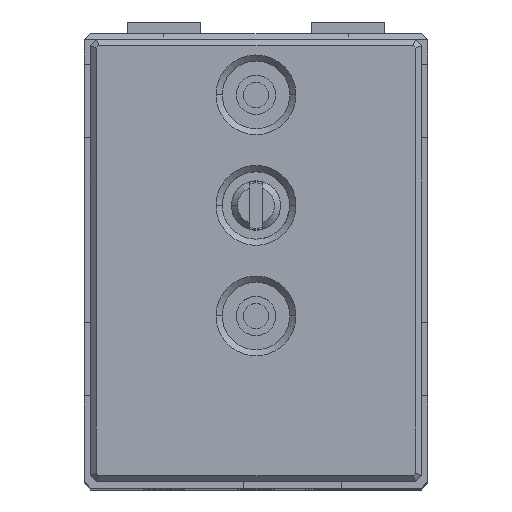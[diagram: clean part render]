
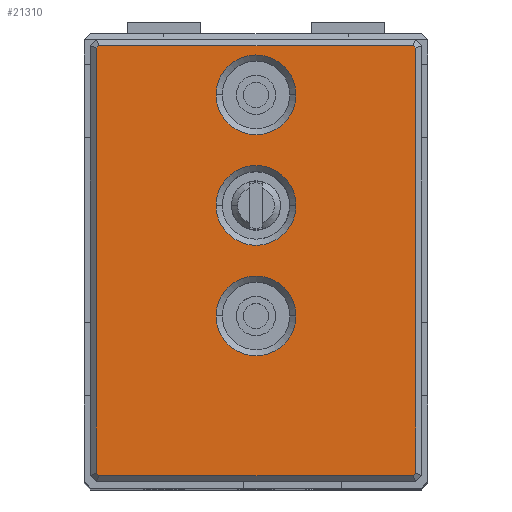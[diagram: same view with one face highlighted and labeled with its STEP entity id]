
A CAD part, top view. The second image highlights one B-rep face of the part: STEP entity #21310.
In plain terms, the highlighted planar face has unit normal (0, 0, 1) as drawn and (0, 0, -1) by its records, which use the part's own axes.
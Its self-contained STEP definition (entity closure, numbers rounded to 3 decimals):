
#101 = CIRCLE ( 'NONE', #27097, 3.25 ) ;
#203 = VERTEX_POINT ( 'NONE', #5102 ) ;
#1277 = EDGE_CURVE ( 'NONE', #12930, #22579, #18953, .T. ) ;
#2662 = DIRECTION ( 'NONE',  ( 0., -1., 0. ) ) ;
#3143 = CARTESIAN_POINT ( 'NONE',  ( 0., 35.5, 0. ) ) ;
#4033 = EDGE_LOOP ( 'NONE', ( #33555, #47469 ) ) ;
#4134 = VERTEX_POINT ( 'NONE', #43701 ) ;
#5102 = CARTESIAN_POINT ( 'NONE',  ( 26.293, 35.5, 0. ) ) ;
#5668 = ORIENTED_EDGE ( 'NONE', *, *, #15088, .T. ) ;
#5672 = ORIENTED_EDGE ( 'NONE', *, *, #36149, .T. ) ;
#5678 = CARTESIAN_POINT ( 'NONE',  ( 13.5, 13.5, 0. ) ) ;
#6556 = CARTESIAN_POINT ( 'NONE',  ( 10.25, 13.5, 0. ) ) ;
#6701 = CARTESIAN_POINT ( 'NONE',  ( 0.5, 35.293, 0. ) ) ;
#6812 = DIRECTION ( 'NONE',  ( -0.707, -0.707, 0. ) ) ;
#6894 = CARTESIAN_POINT ( 'NONE',  ( 10.25, 31.5, 0. ) ) ;
#7827 = CARTESIAN_POINT ( 'NONE',  ( 13.5, 13.5, 0. ) ) ;
#7857 = VERTEX_POINT ( 'NONE', #34235 ) ;
#8000 = CARTESIAN_POINT ( 'NONE',  ( 13.5, 31.5, 0. ) ) ;
#8030 = DIRECTION ( 'NONE',  ( 0., 0., 1. ) ) ;
#8773 = CARTESIAN_POINT ( 'NONE',  ( 0., 0., 0. ) ) ;
#9191 = VECTOR ( 'NONE', #12988, 1000. ) ;
#9226 = CARTESIAN_POINT ( 'NONE',  ( 26.5, 0., 0. ) ) ;
#9432 = DIRECTION ( 'NONE',  ( 1., 0., 0. ) ) ;
#9857 = ORIENTED_EDGE ( 'NONE', *, *, #44030, .T. ) ;
#10477 = VECTOR ( 'NONE', #31579, 1000. ) ;
#10498 = VECTOR ( 'NONE', #11483, 1000. ) ;
#10810 = LINE ( 'NONE', #33134, #42478 ) ;
#11078 = ORIENTED_EDGE ( 'NONE', *, *, #21554, .T. ) ;
#11483 = DIRECTION ( 'NONE',  ( -1., 0., 0. ) ) ;
#12488 = LINE ( 'NONE', #19940, #10477 ) ;
#12657 = DIRECTION ( 'NONE',  ( 0., 0., 1. ) ) ;
#12930 = VERTEX_POINT ( 'NONE', #44294 ) ;
#12988 = DIRECTION ( 'NONE',  ( 0.707, 0.707, 0. ) ) ;
#13525 = EDGE_CURVE ( 'NONE', #45175, #39062, #41711, .T. ) ;
#13844 = DIRECTION ( 'NONE',  ( 1., 0., 0. ) ) ;
#14127 = EDGE_CURVE ( 'NONE', #21255, #16984, #20253, .T. ) ;
#14166 = CARTESIAN_POINT ( 'NONE',  ( 0.707, 0.5, 0. ) ) ;
#14255 = VECTOR ( 'NONE', #29234, 1000. ) ;
#14339 = LINE ( 'NONE', #3143, #14255 ) ;
#15088 = EDGE_CURVE ( 'NONE', #203, #27382, #12488, .T. ) ;
#16408 = DIRECTION ( 'NONE',  ( 1., 0., 0. ) ) ;
#16984 = VERTEX_POINT ( 'NONE', #23808 ) ;
#17264 = DIRECTION ( 'NONE',  ( -0.707, 0.707, 0. ) ) ;
#18404 = CARTESIAN_POINT ( 'NONE',  ( 26.5, 35.293, 0. ) ) ;
#18653 = EDGE_CURVE ( 'NONE', #4134, #33349, #27985, .T. ) ;
#18953 = LINE ( 'NONE', #34052, #10498 ) ;
#19687 = ORIENTED_EDGE ( 'NONE', *, *, #21120, .T. ) ;
#19940 = CARTESIAN_POINT ( 'NONE',  ( 30.896, 30.896, 0. ) ) ;
#20253 = CIRCLE ( 'NONE', #48022, 3.25 ) ;
#20711 = VERTEX_POINT ( 'NONE', #33983 ) ;
#20866 = DIRECTION ( 'NONE',  ( 0., 0., 1. ) ) ;
#20970 = CARTESIAN_POINT ( 'NONE',  ( 0.604, 0.604, 0. ) ) ;
#21120 = EDGE_CURVE ( 'NONE', #35224, #44358, #10810, .T. ) ;
#21255 = VERTEX_POINT ( 'NONE', #6556 ) ;
#21310 = ADVANCED_FACE ( 'NONE', ( #42291, #23437, #30647, #38557 ), #27650, .F. ) ;
#21554 = EDGE_CURVE ( 'NONE', #44358, #20711, #43532, .T. ) ;
#21851 = VECTOR ( 'NONE', #17264, 1000. ) ;
#22579 = VERTEX_POINT ( 'NONE', #14166 ) ;
#22877 = ORIENTED_EDGE ( 'NONE', *, *, #34113, .T. ) ;
#23095 = EDGE_CURVE ( 'NONE', #20711, #203, #14339, .T. ) ;
#23437 = FACE_BOUND ( 'NONE', #28579, .T. ) ;
#23608 = CARTESIAN_POINT ( 'NONE',  ( 13.5, 22.5, 0. ) ) ;
#23808 = CARTESIAN_POINT ( 'NONE',  ( 16.75, 13.5, 0. ) ) ;
#24302 = AXIS2_PLACEMENT_3D ( 'NONE', #7827, #37356, #48855 ) ;
#25405 = LINE ( 'NONE', #20970, #21851 ) ;
#25427 = LINE ( 'NONE', #45073, #44880 ) ;
#26654 = ORIENTED_EDGE ( 'NONE', *, *, #18653, .T. ) ;
#27097 = AXIS2_PLACEMENT_3D ( 'NONE', #28286, #39169, #16408 ) ;
#27382 = VERTEX_POINT ( 'NONE', #18404 ) ;
#27416 = AXIS2_PLACEMENT_3D ( 'NONE', #8773, #8030, #46303 ) ;
#27616 = DIRECTION ( 'NONE',  ( 0., 0., 1. ) ) ;
#27650 = PLANE ( 'NONE',  #27416 ) ;
#27784 = EDGE_CURVE ( 'NONE', #39062, #45175, #101, .T. ) ;
#27985 = CIRCLE ( 'NONE', #32717, 3.25 ) ;
#28198 = VECTOR ( 'NONE', #2662, 1000. ) ;
#28286 = CARTESIAN_POINT ( 'NONE',  ( 13.5, 31.5, 0. ) ) ;
#28302 = DIRECTION ( 'NONE',  ( 1., 0., 0. ) ) ;
#28579 = EDGE_LOOP ( 'NONE', ( #26654, #38247 ) ) ;
#28617 = CARTESIAN_POINT ( 'NONE',  ( -17.396, 17.396, 0. ) ) ;
#29025 = AXIS2_PLACEMENT_3D ( 'NONE', #8000, #27616, #38274 ) ;
#29205 = ORIENTED_EDGE ( 'NONE', *, *, #13525, .T. ) ;
#29234 = DIRECTION ( 'NONE',  ( 1., 0., 0. ) ) ;
#29277 = CARTESIAN_POINT ( 'NONE',  ( 16.75, 22.5, 0. ) ) ;
#30647 = FACE_BOUND ( 'NONE', #4033, .T. ) ;
#31325 = ORIENTED_EDGE ( 'NONE', *, *, #27784, .T. ) ;
#31551 = ORIENTED_EDGE ( 'NONE', *, *, #23095, .T. ) ;
#31579 = DIRECTION ( 'NONE',  ( 0.707, -0.707, 0. ) ) ;
#31791 = LINE ( 'NONE', #9226, #28198 ) ;
#32113 = AXIS2_PLACEMENT_3D ( 'NONE', #23608, #20866, #9432 ) ;
#32425 = EDGE_LOOP ( 'NONE', ( #5672, #22877, #46006, #9857, #19687, #11078, #31551, #5668 ) ) ;
#32717 = AXIS2_PLACEMENT_3D ( 'NONE', #47150, #47884, #13844 ) ;
#33134 = CARTESIAN_POINT ( 'NONE',  ( 0.5, 0., 0. ) ) ;
#33227 = EDGE_CURVE ( 'NONE', #33349, #4134, #36895, .T. ) ;
#33349 = VERTEX_POINT ( 'NONE', #29277 ) ;
#33555 = ORIENTED_EDGE ( 'NONE', *, *, #14127, .T. ) ;
#33875 = DIRECTION ( 'NONE',  ( 0., 1., 0. ) ) ;
#33983 = CARTESIAN_POINT ( 'NONE',  ( 0.707, 35.5, 0. ) ) ;
#34052 = CARTESIAN_POINT ( 'NONE',  ( 0., 0.5, 0. ) ) ;
#34113 = EDGE_CURVE ( 'NONE', #7857, #12930, #25427, .T. ) ;
#34235 = CARTESIAN_POINT ( 'NONE',  ( 26.5, 0.707, 0. ) ) ;
#35224 = VERTEX_POINT ( 'NONE', #38794 ) ;
#36149 = EDGE_CURVE ( 'NONE', #27382, #7857, #31791, .T. ) ;
#36895 = CIRCLE ( 'NONE', #32113, 3.25 ) ;
#37356 = DIRECTION ( 'NONE',  ( 0., 0., 1. ) ) ;
#38247 = ORIENTED_EDGE ( 'NONE', *, *, #33227, .T. ) ;
#38274 = DIRECTION ( 'NONE',  ( 1., 0., 0. ) ) ;
#38557 = FACE_BOUND ( 'NONE', #40439, .T. ) ;
#38794 = CARTESIAN_POINT ( 'NONE',  ( 0.5, 0.707, 0. ) ) ;
#39062 = VERTEX_POINT ( 'NONE', #6894 ) ;
#39169 = DIRECTION ( 'NONE',  ( 0., 0., 1. ) ) ;
#40439 = EDGE_LOOP ( 'NONE', ( #31325, #29205 ) ) ;
#41206 = CARTESIAN_POINT ( 'NONE',  ( 16.75, 31.5, 0. ) ) ;
#41711 = CIRCLE ( 'NONE', #29025, 3.25 ) ;
#42291 = FACE_OUTER_BOUND ( 'NONE', #32425, .T. ) ;
#42478 = VECTOR ( 'NONE', #33875, 1000. ) ;
#43532 = LINE ( 'NONE', #28617, #9191 ) ;
#43701 = CARTESIAN_POINT ( 'NONE',  ( 10.25, 22.5, 0. ) ) ;
#44030 = EDGE_CURVE ( 'NONE', #22579, #35224, #25405, .T. ) ;
#44294 = CARTESIAN_POINT ( 'NONE',  ( 26.293, 0.5, 0. ) ) ;
#44358 = VERTEX_POINT ( 'NONE', #6701 ) ;
#44880 = VECTOR ( 'NONE', #6812, 1000. ) ;
#45073 = CARTESIAN_POINT ( 'NONE',  ( 12.896, -12.896, 0. ) ) ;
#45175 = VERTEX_POINT ( 'NONE', #41206 ) ;
#46006 = ORIENTED_EDGE ( 'NONE', *, *, #1277, .T. ) ;
#46303 = DIRECTION ( 'NONE',  ( 1., 0., 0. ) ) ;
#46557 = CIRCLE ( 'NONE', #24302, 3.25 ) ;
#46559 = EDGE_CURVE ( 'NONE', #16984, #21255, #46557, .T. ) ;
#47150 = CARTESIAN_POINT ( 'NONE',  ( 13.5, 22.5, 0. ) ) ;
#47469 = ORIENTED_EDGE ( 'NONE', *, *, #46559, .T. ) ;
#47884 = DIRECTION ( 'NONE',  ( 0., 0., 1. ) ) ;
#48022 = AXIS2_PLACEMENT_3D ( 'NONE', #5678, #12657, #28302 ) ;
#48855 = DIRECTION ( 'NONE',  ( 1., 0., 0. ) ) ;
